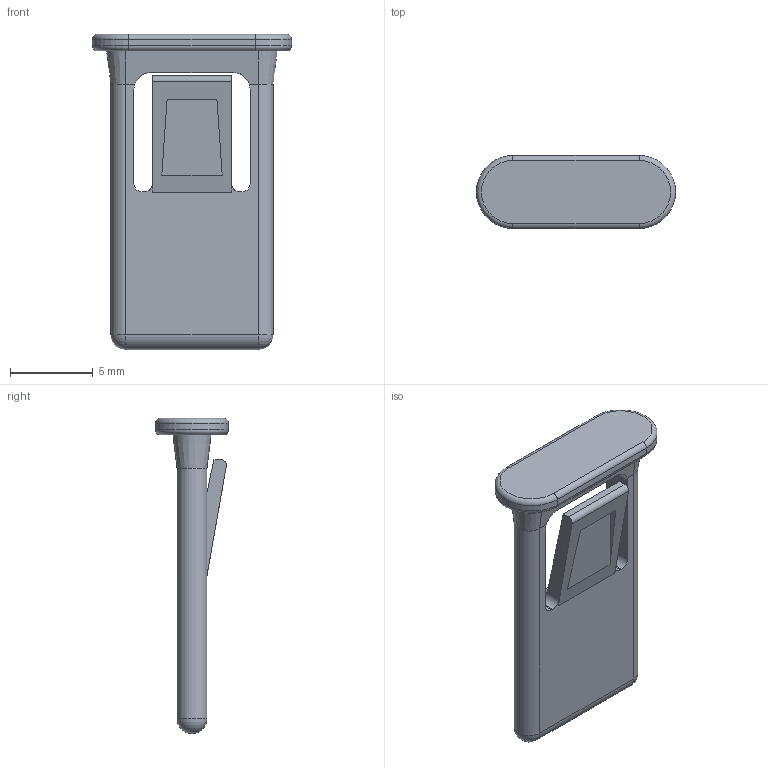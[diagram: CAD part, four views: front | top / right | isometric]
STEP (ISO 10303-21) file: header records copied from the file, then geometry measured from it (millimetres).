
FILE_DESCRIPTION((''),'2;1');
FILE_NAME('C:\Uebbing\PARAMETERKETTEN\KOLIBRI\Kol_22_060_5\Kol_22_060_0_PZ22_Stecksteg.stp','2011-11-02T11:23:43',('Uebbing'),(''),'Autodesk Inventor 10','Autodesk Inventor 10','');
FILE_SCHEMA(('AUTOMOTIVE_DESIGN { 1 0 10303 214 1 1 1 1 }'));
Length unit declared in the file: millimetre
Products named in the file (1): Kol_22_060_0_PZ22_Stecksteg
Bounding box: 12 x 4.4 x 19 mm (x, y, z)
Volume: 293 mm3; surface area: 527.8 mm2
Topology: 1 solids, 1 shells, 47 faces, 123 edges, 76 vertices
Faces by surface type: plane 22, cylinder 17, torus 4, cone 2, sphere 2
Entity records: 1486 total; most frequent: CARTESIAN_POINT 285, DIRECTION 257, ORIENTED_EDGE 242, EDGE_CURVE 121, AXIS2_PLACEMENT_3D 92, VERTEX_POINT 76, VECTOR 73, LINE 73
